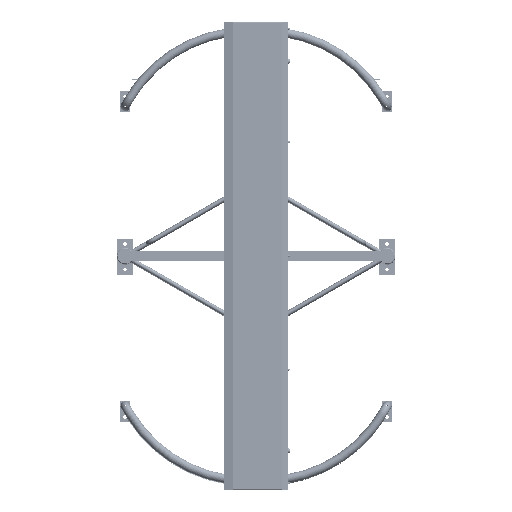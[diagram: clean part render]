
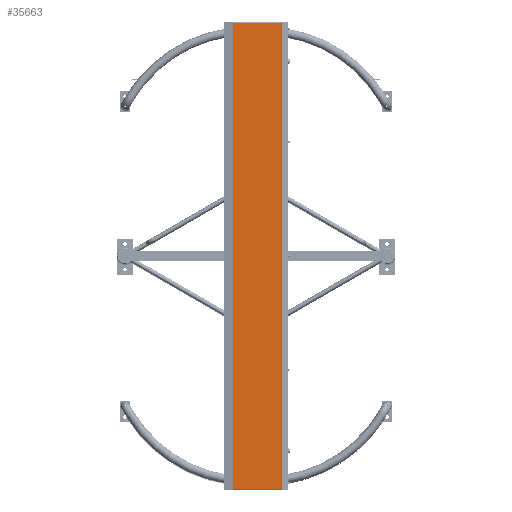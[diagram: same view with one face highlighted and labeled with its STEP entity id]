
A CAD part, top view. The second image highlights one B-rep face of the part: STEP entity #35663.
In plain terms, the highlighted planar face has unit normal (0, 0, 1) as drawn and (0, 1, 0) by its records, which use the part's own axes.
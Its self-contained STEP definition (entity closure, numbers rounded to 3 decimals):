
#1048=LINE('',#65476,#3748);
#1049=LINE('',#65480,#3749);
#1054=LINE('',#65492,#3754);
#1055=LINE('',#65494,#3755);
#1064=LINE('',#65511,#3764);
#1065=LINE('',#65513,#3765);
#1066=LINE('',#65515,#3766);
#1067=LINE('',#65516,#3767);
#3748=VECTOR('',#45988,1000.);
#3749=VECTOR('',#45993,1000.);
#3754=VECTOR('',#46006,1000.);
#3755=VECTOR('',#46009,1000.);
#3764=VECTOR('',#46024,1000.);
#3765=VECTOR('',#46027,1000.);
#3766=VECTOR('',#46028,1000.);
#3767=VECTOR('',#46029,1000.);
#7671=PLANE('',#40212);
#13156=ORIENTED_EDGE('',*,*,#20729,.F.);
#13157=ORIENTED_EDGE('',*,*,#20730,.T.);
#13158=ORIENTED_EDGE('',*,*,#20731,.F.);
#13159=ORIENTED_EDGE('',*,*,#20713,.T.);
#13160=ORIENTED_EDGE('',*,*,#20719,.F.);
#13161=ORIENTED_EDGE('',*,*,#20732,.T.);
#13162=ORIENTED_EDGE('',*,*,#20720,.F.);
#13163=ORIENTED_EDGE('',*,*,#20711,.T.);
#20711=EDGE_CURVE('',#24991,#24995,#1048,.T.);
#20713=EDGE_CURVE('',#24993,#24990,#1049,.T.);
#20719=EDGE_CURVE('',#24998,#24990,#1054,.T.);
#20720=EDGE_CURVE('',#24991,#24999,#1055,.T.);
#20729=EDGE_CURVE('',#25003,#24995,#1064,.T.);
#20730=EDGE_CURVE('',#25003,#25004,#1065,.T.);
#20731=EDGE_CURVE('',#24993,#25004,#1066,.T.);
#20732=EDGE_CURVE('',#24998,#24999,#1067,.T.);
#24990=VERTEX_POINT('',#65458);
#24991=VERTEX_POINT('',#65462);
#24993=VERTEX_POINT('',#65471);
#24995=VERTEX_POINT('',#65477);
#24998=VERTEX_POINT('',#65491);
#24999=VERTEX_POINT('',#65495);
#25003=VERTEX_POINT('',#65510);
#25004=VERTEX_POINT('',#65514);
#29437=EDGE_LOOP('',(#13156,#13157,#13158,#13159,#13160,#13161,#13162,#13163));
#32670=FACE_BOUND('',#29437,.T.);
#35663=ADVANCED_FACE('',(#32670),#7671,.T.);
#40212=AXIS2_PLACEMENT_3D('',#65512,#46025,#46026);
#45988=DIRECTION('',(0.,0.,1.));
#45993=DIRECTION('',(0.,0.,-1.));
#46006=DIRECTION('',(0.,0.,1.));
#46009=DIRECTION('',(0.,0.,-1.));
#46024=DIRECTION('',(0.,0.,-1.));
#46025=DIRECTION('',(0.,1.,0.));
#46026=DIRECTION('',(0.,0.,1.));
#46027=DIRECTION('',(1.,0.,0.));
#46028=DIRECTION('',(0.,0.,1.));
#46029=DIRECTION('',(-1.,0.,0.));
#65458=CARTESIAN_POINT('',(1101.5,114.688,-257.128));
#65462=CARTESIAN_POINT('',(-1101.5,114.688,-257.128));
#65471=CARTESIAN_POINT('',(1101.5,114.688,-28.511));
#65476=CARTESIAN_POINT('',(-1101.5,114.688,-257.128));
#65477=CARTESIAN_POINT('',(-1101.5,114.688,-28.511));
#65480=CARTESIAN_POINT('',(1101.5,114.688,-28.511));
#65491=CARTESIAN_POINT('',(1101.5,114.688,-257.13));
#65492=CARTESIAN_POINT('',(1101.5,114.688,-28.511));
#65494=CARTESIAN_POINT('',(-1101.5,114.688,-257.128));
#65495=CARTESIAN_POINT('',(-1101.5,114.688,-257.13));
#65510=CARTESIAN_POINT('',(-1101.5,114.688,-28.509));
#65511=CARTESIAN_POINT('',(-1101.5,114.688,-257.128));
#65512=CARTESIAN_POINT('',(-1103.5,114.688,-27.726));
#65513=CARTESIAN_POINT('',(-1103.5,114.688,-28.509));
#65514=CARTESIAN_POINT('',(1101.5,114.688,-28.509));
#65515=CARTESIAN_POINT('',(1101.5,114.688,-28.511));
#65516=CARTESIAN_POINT('',(1103.5,114.688,-257.13));
